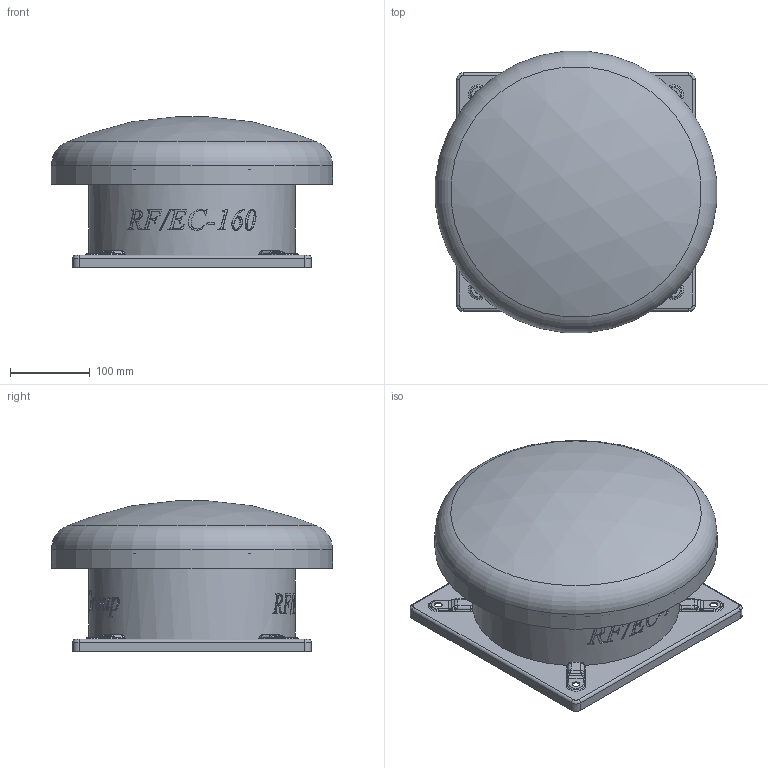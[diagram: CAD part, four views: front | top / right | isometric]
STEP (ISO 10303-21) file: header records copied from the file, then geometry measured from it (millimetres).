
FILE_DESCRIPTION(/* description */ (''),/* implementation_level */ '2;1');
FILE_NAME(/* name */ 'E:\Mariusz\Modele uproszczone\RF-EC\RF_EC_160 43522915\RF_EC_160 43522915\RF_EC_160 43522915.stp',/* time_stamp */ '2018-06-06T15:55:43+02:00',/* author */ ('M.Janczarek'),/* organization */ (''),/* preprocessor_version */ 'ST-DEVELOPER v16.5',/* originating_system */ 'Autodesk Inventor 2017',/* authorisation */ '');
FILE_SCHEMA (('AUTOMOTIVE_DESIGN { 1 0 10303 214 3 1 1 }'));
Length unit declared in the file: millimetre
Products named in the file (1): RF_EC_160 43522915
Bounding box: 353.65 x 353.65 x 189.09 mm (x, y, z)
Volume: 10410777.6 mm3; surface area: 463371.2 mm2
Topology: 1 solids, 1 shells, 721 faces, 1897 edges, 1215 vertices
Faces by surface type: bspline 446, cylinder 110, plane 107, torus 44, cone 13, sphere 1
Full cylindrical faces by diameter (mm): 6.3 x1, 10 x4, 14.4 x1, 260 x1, 352 x1, 355 x1
Entity records: 31621 total; most frequent: CARTESIAN_POINT 15997, ORIENTED_EDGE 3758, DIRECTION 2166, EDGE_CURVE 1879, VERTEX_POINT 1209, AXIS2_PLACEMENT_3D 794, B_SPLINE_CURVE_WITH_KNOTS 783, EDGE_LOOP 778
